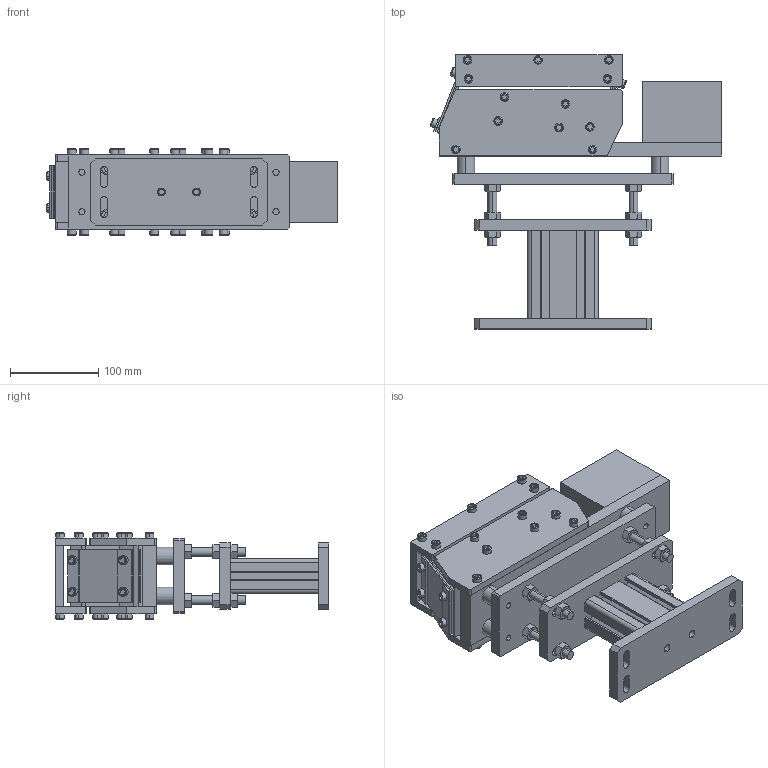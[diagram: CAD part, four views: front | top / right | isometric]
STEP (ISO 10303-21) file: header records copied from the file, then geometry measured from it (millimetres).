
FILE_DESCRIPTION (( 'STEP AP214' ), '1' );
FILE_NAME ('ZX200 盓殤恁饜.STEP', '2023-02-10T05:25:33', ( '' ), ( '' ), 'SwSTEP 2.0', 'SolidWorks 2022', '' );
FILE_SCHEMA (( 'AUTOMOTIVE_DESIGN' ));
Length unit declared in the file: millimetre
Products named in the file (1): ZX200 盓殤恁饜
Bounding box: 330.46 x 310.5 x 98 mm (x, y, z)
Volume: 2123950.7 mm3; surface area: 561104.8 mm2
Topology: 77 solids, 77 shells, 1188 faces, 2862 edges, 1860 vertices
Faces by surface type: plane 718, cylinder 310, cone 96, bspline 64
Entity records: 37480 total; most frequent: CARTESIAN_POINT 8551, ORIENTED_EDGE 5724, DIRECTION 5700, EDGE_CURVE 2862, AXIS2_PLACEMENT_3D 1921, VERTEX_POINT 1860, VECTOR 1858, LINE 1858
